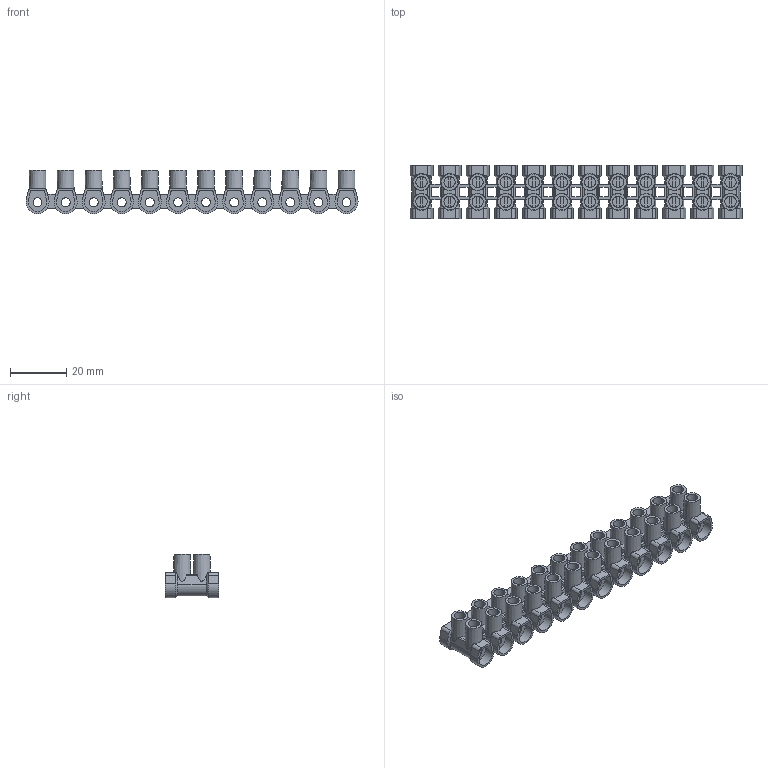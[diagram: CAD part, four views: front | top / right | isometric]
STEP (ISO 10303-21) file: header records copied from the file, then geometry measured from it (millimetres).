
FILE_DESCRIPTION(/* description */ ('Unknown'),/* implementation_level */ '2;1');
FILE_NAME(/* name */ 'MT 106 N',/* time_stamp */ '2021-10-08T10:21:21+02:00',/* author */ ('Unknown'),/* organization */ ('Unknown'),/* preprocessor_version */ 'ST-DEVELOPER v16.7',/* originating_system */ 'Solid Edge',/* authorisation */ 'Unknown');
FILE_SCHEMA (('AP242_MANAGED_MODEL_BASED_3D_ENGINEERING_MIM_LF { 1 0 10303 442 1 1 4 }','AUTOMOTIVE_DESIGN {1 0 10303 214 3 1 1}'));
Length unit declared in the file: millimetre
Products named in the file (1): MT 106 N
Bounding box: 118.19 x 19.2 x 15.49 mm (x, y, z)
Volume: 11111.8 mm3; surface area: 16434.8 mm2
Topology: 1 solids, 1 shells, 912 faces, 2406 edges, 1544 vertices
Faces by surface type: plane 600, cylinder 216, cone 96
Full cylindrical faces by diameter (mm): 3.2 x12, 4 x24
Entity records: 27652 total; most frequent: CARTESIAN_POINT 5343, DIRECTION 4680, ORIENTED_EDGE 4572, EDGE_CURVE 2286, AXIS2_PLACEMENT_3D 1669, VERTEX_POINT 1484, LINE 1342, VECTOR 1342
